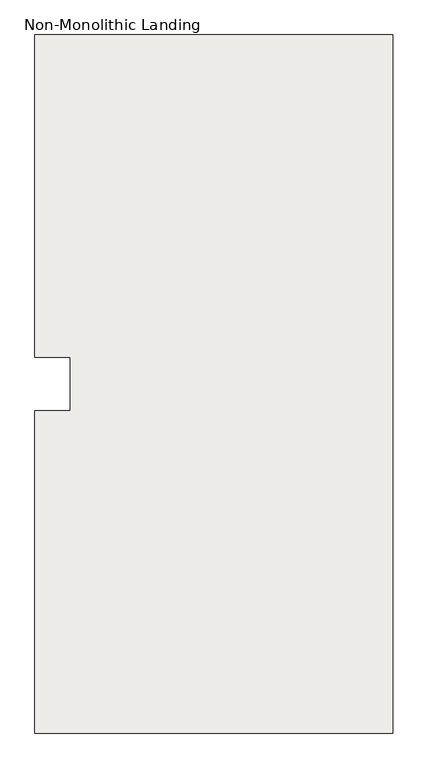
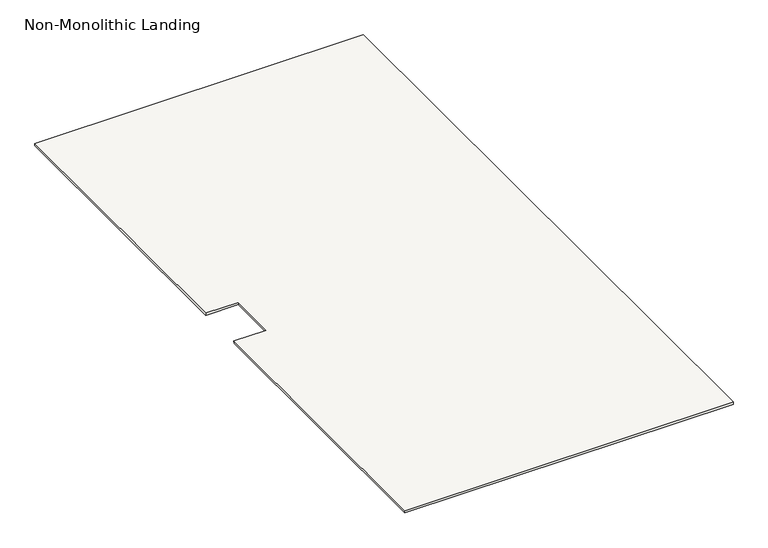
"""IFC4 building model written with IfcOpenShell, lengths in millimetres: slab geometry, Non-Monolithic Landing."""

from ifc_helpers import new_model, si_unit, origin, place, context, project, spatial, faceted_brep, source, transform, mapped, element, save


def non_monolithic_landing_05e71245(model_context):
    return source(origin(), model_context, "Body", "Brep", [
        faceted_brep([(14712.5, 6790.0, 1750.0), (15722.5, 6790.0, 1750.0), (15722.5, 8759.9999854, 1750.0), (14712.5000334, 8759.9999854, 1750.0), (14712.5000334, 7850.0000116, 1750.0), (14812.4999776, 7850.0000116, 1750.0), (14812.4999776, 7700.0000224, 1750.0), (14712.5, 7700.0000224, 1750.0), (15722.5, 8759.9999854, 1742.5), (15722.5, 6790.0, 1742.5), (14713.3181818, 6790.0, 1742.5), (14713.3181818, 7700.0000224, 1742.5), (14812.4999776, 7700.0000224, 1742.5), (14812.4999776, 7850.0000116, 1742.5), (14712.5000334, 7850.0000116, 1742.5), (14712.5000334, 8759.9999854, 1742.5)], [[[0, 1, 2, 3, 4, 5, 6, 7]], [[8, 9, 10, 11, 12, 13, 14, 15]], [[4, 3, 15, 14]], [[5, 4, 14, 13]], [[6, 5, 13, 12]], [[7, 6, 12, 11]], [[1, 0, 10, 9]], [[2, 1, 9, 8]], [[3, 2, 8, 15]], [[0, 7, 11, 10]]]),
    ])


if __name__ == "__main__":
    model = new_model("IFC4")
    model_context = context("Model", 3, world=origin())
    ifc_project = project(units=[si_unit("LENGTHUNIT", "METRE", prefix="MILLI")], contexts=[model_context])
    site = spatial("IfcSite", under=ifc_project)
    building = spatial("IfcBuilding", under=site)
    placement = place(None, origin())
    non_monolithic_landing_shape = non_monolithic_landing_05e71245(model_context)
    element("IfcSlab", 1, ObjectType="Non-Monolithic Landing", at=placement, inside=building, context=model_context, shape_type="MappedRepresentation", body=[
        mapped(non_monolithic_landing_shape, transform((0.0, 0.0, 0.0), x_axis=(1.0, 0.0, 0.0), y_axis=(0.0, 1.0, 0.0), z_axis=(0.0, 0.0, 1.0))),
    ])
    save(model, "model.ifc")
